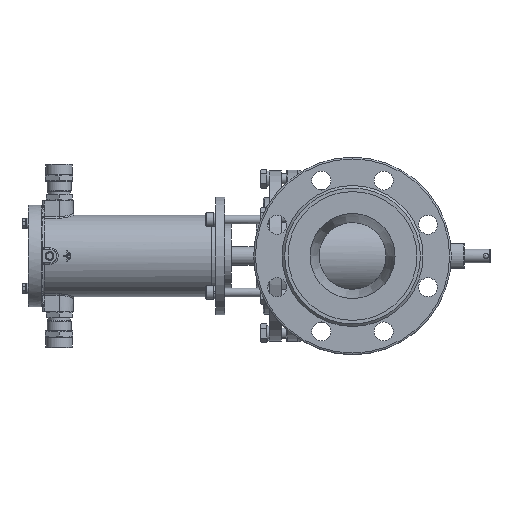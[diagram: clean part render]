
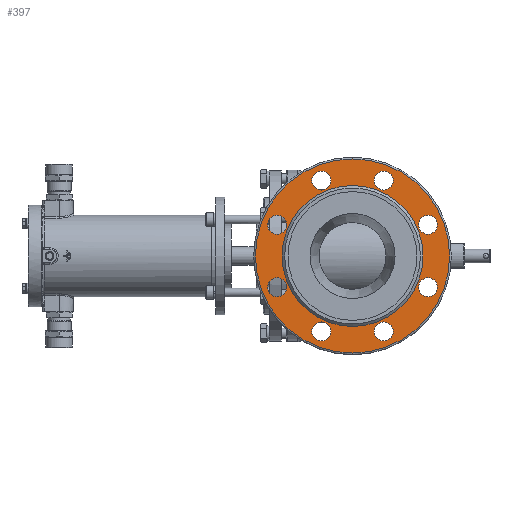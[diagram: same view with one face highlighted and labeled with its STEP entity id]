
A CAD part, left-side view. The second image highlights one B-rep face of the part: STEP entity #397.
In plain terms, the highlighted planar face has unit normal (-1, 0, 0).
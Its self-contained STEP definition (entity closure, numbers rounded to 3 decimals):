
#397=ADVANCED_FACE('',(#8419,#8421,#8423,#8425,#8427,#8429,#8431,#8433,#8435,#8437),
#8439,.T.);
#8419=FACE_BOUND('',#8420,.T.);
#8420=EDGE_LOOP('',(#25105));
#8421=FACE_BOUND('',#8422,.T.);
#8422=EDGE_LOOP('',(#25106));
#8423=FACE_BOUND('',#8424,.T.);
#8424=EDGE_LOOP('',(#25107));
#8425=FACE_BOUND('',#8426,.T.);
#8426=EDGE_LOOP('',(#25108));
#8427=FACE_BOUND('',#8428,.T.);
#8428=EDGE_LOOP('',(#25109));
#8429=FACE_BOUND('',#8430,.T.);
#8430=EDGE_LOOP('',(#25110));
#8431=FACE_BOUND('',#8432,.T.);
#8432=EDGE_LOOP('',(#25111));
#8433=FACE_BOUND('',#8434,.T.);
#8434=EDGE_LOOP('',(#25112));
#8435=FACE_BOUND('',#8436,.T.);
#8436=EDGE_LOOP('',(#25113));
#8437=FACE_OUTER_BOUND('',#8438,.T.);
#8438=EDGE_LOOP('',(#25114));
#8439=PLANE('',#8440);
#8440=AXIS2_PLACEMENT_3D('',#8441,#8442,#8443);
#8441=CARTESIAN_POINT('',(-151.,0.,0.));
#8442=DIRECTION('',(-1.,0.,0.));
#8443=DIRECTION('',(0.,1.,0.));
#25105=ORIENTED_EDGE('',*,*,#37535,.F.);
#25106=ORIENTED_EDGE('',*,*,#37482,.T.);
#25107=ORIENTED_EDGE('',*,*,#37480,.T.);
#25108=ORIENTED_EDGE('',*,*,#37478,.T.);
#25109=ORIENTED_EDGE('',*,*,#37476,.T.);
#25110=ORIENTED_EDGE('',*,*,#37474,.T.);
#25111=ORIENTED_EDGE('',*,*,#37472,.T.);
#25112=ORIENTED_EDGE('',*,*,#37470,.T.);
#25113=ORIENTED_EDGE('',*,*,#37468,.T.);
#25114=ORIENTED_EDGE('',*,*,#37536,.T.);
#37468=EDGE_CURVE('',#43184,#43184,#43186,.F.);
#37470=EDGE_CURVE('',#43187,#43187,#43189,.F.);
#37472=EDGE_CURVE('',#43190,#43190,#43192,.F.);
#37474=EDGE_CURVE('',#43193,#43193,#43195,.F.);
#37476=EDGE_CURVE('',#43196,#43196,#43198,.F.);
#37478=EDGE_CURVE('',#43199,#43199,#43201,.F.);
#37480=EDGE_CURVE('',#43202,#43202,#43204,.F.);
#37482=EDGE_CURVE('',#43205,#43205,#43207,.F.);
#37535=EDGE_CURVE('',#43305,#43305,#43306,.T.);
#37536=EDGE_CURVE('',#43307,#43307,#43308,.T.);
#43184=VERTEX_POINT('',#57310);
#43186=CIRCLE('',#57314,11.);
#43187=VERTEX_POINT('',#57318);
#43189=CIRCLE('',#57322,11.);
#43190=VERTEX_POINT('',#57326);
#43192=CIRCLE('',#57330,11.);
#43193=VERTEX_POINT('',#57334);
#43195=CIRCLE('',#57338,11.);
#43196=VERTEX_POINT('',#57342);
#43198=CIRCLE('',#57346,11.);
#43199=VERTEX_POINT('',#57350);
#43201=CIRCLE('',#57354,11.);
#43202=VERTEX_POINT('',#57358);
#43204=CIRCLE('',#57362,11.);
#43205=VERTEX_POINT('',#57366);
#43207=CIRCLE('',#57370,11.);
#43305=VERTEX_POINT('',#57722);
#43306=CIRCLE('',#57723,82.);
#43307=VERTEX_POINT('',#57727);
#43308=CIRCLE('',#57728,113.);
#57310=CARTESIAN_POINT('',(-151.,87.769,25.355));
#57314=AXIS2_PLACEMENT_3D('',#57315,#57316,#57317);
#57315=CARTESIAN_POINT('',(-151.,87.769,36.355));
#57316=DIRECTION('',(-1.,0.,0.));
#57317=DIRECTION('',(0.,0.,-1.));
#57318=CARTESIAN_POINT('',(-151.,87.769,-47.355));
#57322=AXIS2_PLACEMENT_3D('',#57323,#57324,#57325);
#57323=CARTESIAN_POINT('',(-151.,87.769,-36.355));
#57324=DIRECTION('',(-1.,0.,0.));
#57325=DIRECTION('',(0.,0.,-1.));
#57326=CARTESIAN_POINT('',(-151.,36.355,-98.769));
#57330=AXIS2_PLACEMENT_3D('',#57331,#57332,#57333);
#57331=CARTESIAN_POINT('',(-151.,36.355,-87.769));
#57332=DIRECTION('',(-1.,0.,0.));
#57333=DIRECTION('',(0.,0.,-1.));
#57334=CARTESIAN_POINT('',(-151.,36.355,76.769));
#57338=AXIS2_PLACEMENT_3D('',#57339,#57340,#57341);
#57339=CARTESIAN_POINT('',(-151.,36.355,87.769));
#57340=DIRECTION('',(-1.,0.,0.));
#57341=DIRECTION('',(0.,0.,-1.));
#57342=CARTESIAN_POINT('',(-151.,-87.769,25.355));
#57346=AXIS2_PLACEMENT_3D('',#57347,#57348,#57349);
#57347=CARTESIAN_POINT('',(-151.,-87.769,36.355));
#57348=DIRECTION('',(-1.,0.,0.));
#57349=DIRECTION('',(0.,0.,-1.));
#57350=CARTESIAN_POINT('',(-151.,-87.769,-47.355));
#57354=AXIS2_PLACEMENT_3D('',#57355,#57356,#57357);
#57355=CARTESIAN_POINT('',(-151.,-87.769,-36.355));
#57356=DIRECTION('',(-1.,0.,0.));
#57357=DIRECTION('',(0.,0.,-1.));
#57358=CARTESIAN_POINT('',(-151.,-36.355,-98.769));
#57362=AXIS2_PLACEMENT_3D('',#57363,#57364,#57365);
#57363=CARTESIAN_POINT('',(-151.,-36.355,-87.769));
#57364=DIRECTION('',(-1.,0.,0.));
#57365=DIRECTION('',(0.,0.,-1.));
#57366=CARTESIAN_POINT('',(-151.,-36.355,76.769));
#57370=AXIS2_PLACEMENT_3D('',#57371,#57372,#57373);
#57371=CARTESIAN_POINT('',(-151.,-36.355,87.769));
#57372=DIRECTION('',(-1.,0.,0.));
#57373=DIRECTION('',(0.,0.,-1.));
#57722=CARTESIAN_POINT('',(-151.,82.,0.));
#57723=AXIS2_PLACEMENT_3D('',#57724,#57725,#57726);
#57724=CARTESIAN_POINT('',(-151.,0.,0.));
#57725=DIRECTION('',(-1.,0.,0.));
#57726=DIRECTION('',(0.,1.,0.));
#57727=CARTESIAN_POINT('',(-151.,113.,0.));
#57728=AXIS2_PLACEMENT_3D('',#57729,#57730,#57731);
#57729=CARTESIAN_POINT('',(-151.,0.,0.));
#57730=DIRECTION('',(-1.,0.,0.));
#57731=DIRECTION('',(0.,1.,0.));
